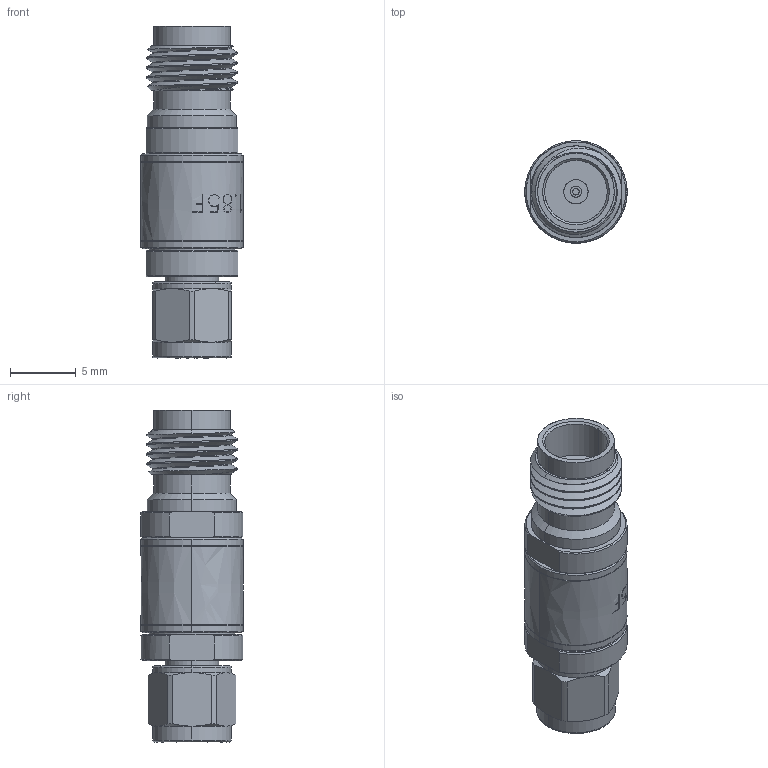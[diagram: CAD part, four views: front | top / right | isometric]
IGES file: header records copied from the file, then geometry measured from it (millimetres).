
Start section: SolidWorks IGES file using analytic representation for surfaces
Global section: file name: C:\Users\sculpepper\Desktop\2234000K001-835-C\2234000K001-835-Cigs.IGS; native system: SolidWorks 2019; preprocessor: SolidWorks 2019; author: sculpepper; date: 201029.162422; units: inch
Bounding box: 7.81 x 7.81 x 25.32 mm (x, y, z)
Surface area: 973.8 mm2 (no closed solid volume)
Topology: 0 solids, 0 shells, 369 faces, 3860 edges, 3860 vertices
Faces by surface type: bspline 232, revolution 137
